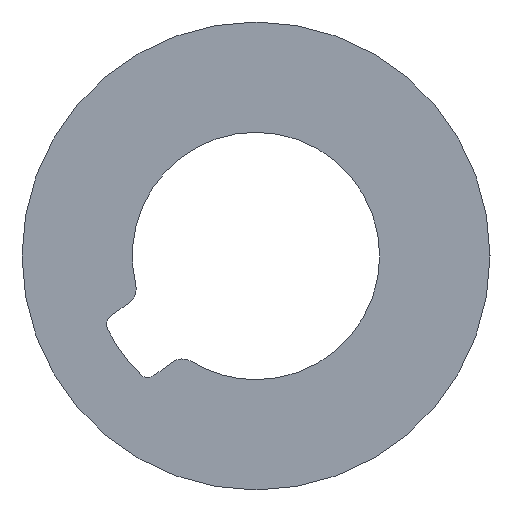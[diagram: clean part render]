
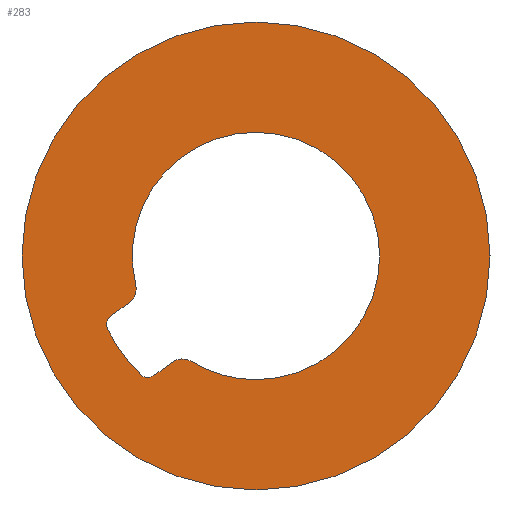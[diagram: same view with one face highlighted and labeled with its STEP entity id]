
A CAD part, left-side view. The second image highlights one B-rep face of the part: STEP entity #283.
In plain terms, the highlighted planar face has unit normal (-1, 0, 0).
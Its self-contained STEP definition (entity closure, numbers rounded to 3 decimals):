
#23 = AXIS2_PLACEMENT_3D ( 'NONE', #400, #399, #398 ) ;
#27 = AXIS2_PLACEMENT_3D ( 'NONE', #418, #416, #415 ) ;
#34 = AXIS2_PLACEMENT_3D ( 'NONE', #452, #450, #449 ) ;
#36 = AXIS2_PLACEMENT_3D ( 'NONE', #465, #464, #463 ) ;
#38 = AXIS2_PLACEMENT_3D ( 'NONE', #476, #475, #474 ) ;
#40 = AXIS2_PLACEMENT_3D ( 'NONE', #490, #489, #488 ) ;
#43 = AXIS2_PLACEMENT_3D ( 'NONE', #524, #523, #522 ) ;
#44 = AXIS2_PLACEMENT_3D ( 'NONE', #356, #354, #525 ) ;
#45 = AXIS2_PLACEMENT_3D ( 'NONE', #368, #366, #362 ) ;
#46 = AXIS2_PLACEMENT_3D ( 'NONE', #390, #389, #384 ) ;
#47 = AXIS2_PLACEMENT_3D ( 'NONE', #403, #401, #396 ) ;
#48 = AXIS2_PLACEMENT_3D ( 'NONE', #423, #422, #417 ) ;
#49 = EDGE_CURVE ( 'NONE', #458, #462, #231, .T. ) ;
#50 = EDGE_CURVE ( 'NONE', #477, #510, #226, .T. ) ;
#52 = EDGE_CURVE ( 'NONE', #462, #440, #222, .T. ) ;
#53 = EDGE_CURVE ( 'NONE', #487, #484, #220, .T. ) ;
#54 = EDGE_CURVE ( 'NONE', #484, #491, #221, .T. ) ;
#55 = EDGE_CURVE ( 'NONE', #491, #477, #216, .T. ) ;
#56 = EDGE_CURVE ( 'NONE', #510, #494, #215, .T. ) ;
#57 = EDGE_CURVE ( 'NONE', #494, #458, #213, .T. ) ;
#67 = EDGE_CURVE ( 'NONE', #473, #505, #193, .T. ) ;
#71 = EDGE_CURVE ( 'NONE', #514, #451, #186, .T. ) ;
#74 = EDGE_CURVE ( 'NONE', #440, #514, #179, .T. ) ;
#78 = EDGE_CURVE ( 'NONE', #451, #487, #172, .T. ) ;
#87 = EDGE_CURVE ( 'NONE', #505, #473, #154, .T. ) ;
#93 = ORIENTED_EDGE ( 'NONE', *, *, #49, .T. ) ;
#94 = ORIENTED_EDGE ( 'NONE', *, *, #67, .F. ) ;
#95 = ORIENTED_EDGE ( 'NONE', *, *, #87, .F. ) ;
#96 = ORIENTED_EDGE ( 'NONE', *, *, #52, .T. ) ;
#97 = ORIENTED_EDGE ( 'NONE', *, *, #71, .T. ) ;
#98 = ORIENTED_EDGE ( 'NONE', *, *, #74, .T. ) ;
#104 = ORIENTED_EDGE ( 'NONE', *, *, #54, .T. ) ;
#105 = ORIENTED_EDGE ( 'NONE', *, *, #53, .T. ) ;
#106 = ORIENTED_EDGE ( 'NONE', *, *, #78, .T. ) ;
#107 = ORIENTED_EDGE ( 'NONE', *, *, #56, .T. ) ;
#108 = ORIENTED_EDGE ( 'NONE', *, *, #50, .T. ) ;
#109 = ORIENTED_EDGE ( 'NONE', *, *, #55, .T. ) ;
#111 = ORIENTED_EDGE ( 'NONE', *, *, #57, .T. ) ;
#147 = FACE_BOUND ( 'NONE', #235, .T. ) ;
#148 = FACE_OUTER_BOUND ( 'NONE', #236, .T. ) ;
#154 = CIRCLE ( 'NONE', #27, 7. ) ;
#172 = CIRCLE ( 'NONE', #34, 3.7 ) ;
#179 = CIRCLE ( 'NONE', #36, 3.7 ) ;
#186 = CIRCLE ( 'NONE', #38, 3.7 ) ;
#193 = CIRCLE ( 'NONE', #40, 7. ) ;
#213 = CIRCLE ( 'NONE', #43, 0.3 ) ;
#215 = CIRCLE ( 'NONE', #44, 4.95 ) ;
#216 = CIRCLE ( 'NONE', #45, 0.3 ) ;
#219 = VECTOR ( 'NONE', #374, 1000. ) ;
#220 = CIRCLE ( 'NONE', #46, 0.5 ) ;
#221 = LINE ( 'NONE', #377, #219 ) ;
#222 = CIRCLE ( 'NONE', #47, 0.5 ) ;
#226 = CIRCLE ( 'NONE', #48, 0.3 ) ;
#230 = VECTOR ( 'NONE', #429, 1000. ) ;
#231 = LINE ( 'NONE', #432, #230 ) ;
#235 = EDGE_LOOP ( 'NONE', ( #93, #96, #98, #97, #106, #105, #104, #109, #108, #107, #111 ) ) ;
#236 = EDGE_LOOP ( 'NONE', ( #95, #94 ) ) ;
#283 = ADVANCED_FACE ( 'NONE', ( #148, #147 ), #402, .F. ) ;
#320 = CARTESIAN_POINT ( 'NONE',  ( -214.5, 0., 3.7 ) ) ;
#321 = CARTESIAN_POINT ( 'NONE',  ( -214.5, 3.444, -3.555 ) ) ;
#323 = CARTESIAN_POINT ( 'NONE',  ( -214.5, 0., 7. ) ) ;
#326 = CARTESIAN_POINT ( 'NONE',  ( -214.5, 4.445, -2.177 ) ) ;
#327 = CARTESIAN_POINT ( 'NONE',  ( -214.5, 3.059, -3.582 ) ) ;
#328 = CARTESIAN_POINT ( 'NONE',  ( -214.5, 1.939, -3.151 ) ) ;
#329 = CARTESIAN_POINT ( 'NONE',  ( -214.5, 2.495, -3.172 ) ) ;
#331 = CARTESIAN_POINT ( 'NONE',  ( -214.5, 3.236, -3.64 ) ) ;
#332 = CARTESIAN_POINT ( 'NONE',  ( -214.5, 0., -7. ) ) ;
#335 = CARTESIAN_POINT ( 'NONE',  ( -214.5, 3.788, -1.393 ) ) ;
#336 = CARTESIAN_POINT ( 'NONE',  ( -214.5, 4.352, -1.803 ) ) ;
#338 = CARTESIAN_POINT ( 'NONE',  ( -214.5, 0., -3.7 ) ) ;
#341 = CARTESIAN_POINT ( 'NONE',  ( -214.5, 3.596, -0.87 ) ) ;
#354 = DIRECTION ( 'NONE',  ( 1., 0., 0. ) ) ;
#356 = CARTESIAN_POINT ( 'NONE',  ( -214.5, 0., 0. ) ) ;
#362 = DIRECTION ( 'NONE',  ( 0., 0., 1. ) ) ;
#366 = DIRECTION ( 'NONE',  ( 1., 0., 0. ) ) ;
#368 = CARTESIAN_POINT ( 'NONE',  ( -214.5, 3.236, -3.34 ) ) ;
#374 = DIRECTION ( 'NONE',  ( 0., 0.809, -0.588 ) ) ;
#377 = CARTESIAN_POINT ( 'NONE',  ( -214.5, 3.059, -3.582 ) ) ;
#384 = DIRECTION ( 'NONE',  ( 0., 0., -1. ) ) ;
#389 = DIRECTION ( 'NONE',  ( -1., 0., 0. ) ) ;
#390 = CARTESIAN_POINT ( 'NONE',  ( -214.5, 2.201, -3.577 ) ) ;
#396 = DIRECTION ( 'NONE',  ( 0., 0., 1. ) ) ;
#398 = DIRECTION ( 'NONE',  ( 0., 0., -1. ) ) ;
#399 = DIRECTION ( 'NONE',  ( 1., 0., 0. ) ) ;
#400 = CARTESIAN_POINT ( 'NONE',  ( -214.5, 0., 0. ) ) ;
#401 = DIRECTION ( 'NONE',  ( -1., 0., 0. ) ) ;
#402 = PLANE ( 'NONE',  #23 ) ;
#403 = CARTESIAN_POINT ( 'NONE',  ( -214.5, 4.082, -0.988 ) ) ;
#415 = DIRECTION ( 'NONE',  ( 0., 0., -1. ) ) ;
#416 = DIRECTION ( 'NONE',  ( 1., 0., 0. ) ) ;
#417 = DIRECTION ( 'NONE',  ( 0., 0., 1. ) ) ;
#418 = CARTESIAN_POINT ( 'NONE',  ( -214.5, 0., 0. ) ) ;
#422 = DIRECTION ( 'NONE',  ( 1., 0., 0. ) ) ;
#423 = CARTESIAN_POINT ( 'NONE',  ( -214.5, 3.236, -3.34 ) ) ;
#429 = DIRECTION ( 'NONE',  ( 0., -0.809, 0.588 ) ) ;
#432 = CARTESIAN_POINT ( 'NONE',  ( -214.5, 3.788, -1.393 ) ) ;
#440 = VERTEX_POINT ( 'NONE', #341 ) ;
#449 = DIRECTION ( 'NONE',  ( 0., 0., -1. ) ) ;
#450 = DIRECTION ( 'NONE',  ( 1., 0., 0. ) ) ;
#451 = VERTEX_POINT ( 'NONE', #338 ) ;
#452 = CARTESIAN_POINT ( 'NONE',  ( -214.5, 0., 0. ) ) ;
#458 = VERTEX_POINT ( 'NONE', #336 ) ;
#462 = VERTEX_POINT ( 'NONE', #335 ) ;
#463 = DIRECTION ( 'NONE',  ( 0., 0., -1. ) ) ;
#464 = DIRECTION ( 'NONE',  ( 1., 0., 0. ) ) ;
#465 = CARTESIAN_POINT ( 'NONE',  ( -214.5, 0., 0. ) ) ;
#473 = VERTEX_POINT ( 'NONE', #332 ) ;
#474 = DIRECTION ( 'NONE',  ( 0., 0., -1. ) ) ;
#475 = DIRECTION ( 'NONE',  ( 1., 0., 0. ) ) ;
#476 = CARTESIAN_POINT ( 'NONE',  ( -214.5, 0., 0. ) ) ;
#477 = VERTEX_POINT ( 'NONE', #331 ) ;
#484 = VERTEX_POINT ( 'NONE', #329 ) ;
#487 = VERTEX_POINT ( 'NONE', #328 ) ;
#488 = DIRECTION ( 'NONE',  ( 0., 0., -1. ) ) ;
#489 = DIRECTION ( 'NONE',  ( 1., 0., 0. ) ) ;
#490 = CARTESIAN_POINT ( 'NONE',  ( -214.5, 0., 0. ) ) ;
#491 = VERTEX_POINT ( 'NONE', #327 ) ;
#494 = VERTEX_POINT ( 'NONE', #326 ) ;
#505 = VERTEX_POINT ( 'NONE', #323 ) ;
#510 = VERTEX_POINT ( 'NONE', #321 ) ;
#514 = VERTEX_POINT ( 'NONE', #320 ) ;
#522 = DIRECTION ( 'NONE',  ( 0., 0., -1. ) ) ;
#523 = DIRECTION ( 'NONE',  ( 1., 0., 0. ) ) ;
#524 = CARTESIAN_POINT ( 'NONE',  ( -214.5, 4.176, -2.045 ) ) ;
#525 = DIRECTION ( 'NONE',  ( 0., 0., 1. ) ) ;
